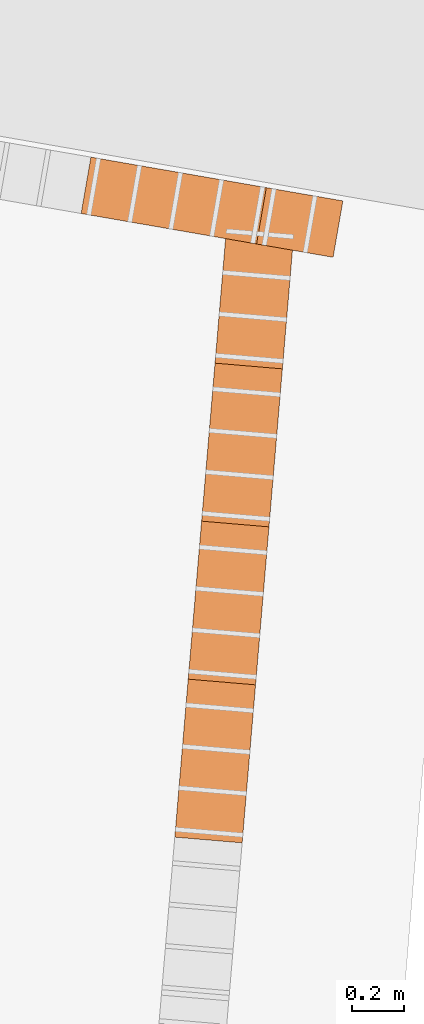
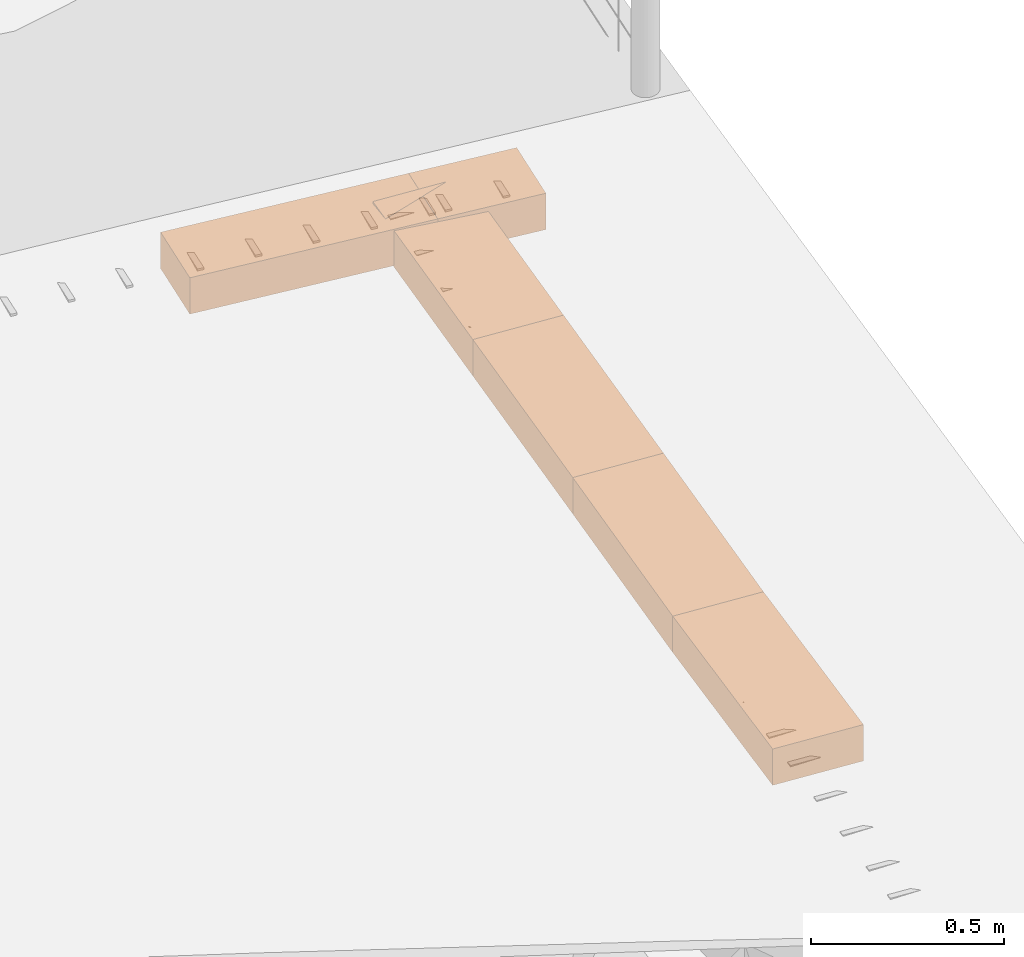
# Not in any storey, part 72 of 72: 6 proxies.
"""IFC4 model written with IfcOpenShell, lengths in metres."""

from ifc_helpers import new_model, si_unit, direction, frame, origin_with_axes, place, context, subcontext, project, spatial, polygons, material, element, save


model = new_model("IFC4")

# Units and contexts
model_context = context("Model", 3, precision=1e-05, world=origin_with_axes(), true_north=direction((0.0, 1.0)))
body_context = subcontext(model_context, "Body", "Model", "MODEL_VIEW")
ifc_project = project(units=[si_unit("AREAUNIT", "SQUARE_METRE"), si_unit("VOLUMEUNIT", "CUBIC_METRE"), si_unit("LENGTHUNIT", "METRE")], contexts=[model_context])

# Site
site_placement = place(None, origin_with_axes())
site = spatial("IfcSite", under=ifc_project, at=site_placement, Name="Lares · Rua das Mercês · artigo 4771")

# Proxies
ifc_material = material(Name="Brita drenante", Category="stone")
proxy_1_placement = place(site_placement, frame((0.0, 0.0, 0.0), z_axis=(0.0, 0.0, 1.0), x_axis=(1.0, -1.03767253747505e-17, 0.0)))
element("IfcBuildingElementProxy", 1, at=proxy_1_placement, inside=site, material=ifc_material, Name="Acesso · dreno lateral raso · leito drenante", ObjectType="Acesso · dreno lateral raso · leito drenante", PredefinedType="USERDEFINED", context=body_context, shape_type="Tessellation", body=[
    polygons([(82.2036088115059, 5.5071228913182, 16.2737932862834), (82.241255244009, 5.72387792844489, 16.2737932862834), (82.9159825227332, 5.60668999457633, 16.295060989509), (82.8783360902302, 5.38993495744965, 16.295060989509), (82.2036088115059, 5.5071228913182, 16.3887932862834), (82.241255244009, 5.72387792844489, 16.3887932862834), (82.9159825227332, 5.60668999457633, 16.410060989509), (82.8783360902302, 5.38993495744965, 16.410060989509)], [[[4, 3, 2, 1]], [[5, 6, 7, 8]], [[1, 2, 6, 5]], [[2, 3, 7, 6]], [[3, 4, 8, 7]], [[4, 1, 5, 8]]]),
])
proxy_2_placement = place(site_placement, frame((0.0, 0.0, 0.0), z_axis=(0.0, 0.0, 1.0), x_axis=(1.0, -1.03767253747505e-17, 0.0)))
element("IfcBuildingElementProxy", 2, at=proxy_2_placement, inside=site, material=ifc_material, Name="Acesso · dreno lateral raso · leito drenante", ObjectType="Acesso · dreno lateral raso · leito drenante", PredefinedType="USERDEFINED", context=body_context, shape_type="Tessellation", body=[
    polygons([(82.8783362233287, 5.38993493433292, 16.295060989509), (82.9159823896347, 5.60669001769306, 16.295060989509), (83.2103184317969, 5.55556953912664, 16.3043386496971), (83.1726722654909, 5.3388144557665, 16.3043386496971), (82.8783362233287, 5.38993493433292, 16.410060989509), (82.9159823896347, 5.60669001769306, 16.410060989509), (83.2103184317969, 5.55556953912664, 16.4193386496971), (83.1726722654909, 5.3388144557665, 16.4193386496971)], [[[4, 3, 2, 1]], [[5, 6, 7, 8]], [[1, 2, 6, 5]], [[2, 3, 7, 6]], [[3, 4, 8, 7]], [[4, 1, 5, 8]]]),
])
proxy_3_placement = place(site_placement, frame((0.0, 0.0, 0.0), z_axis=(0.0, 0.0, 1.0), x_axis=(1.0, -1.03767253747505e-17, 0.0)))
element("IfcBuildingElementProxy", 3, at=proxy_3_placement, inside=site, material=ifc_material, Name="Interceção · caleira rua · leito drenante", ObjectType="Interceção · caleira rua · leito drenante", PredefinedType="USERDEFINED", context=body_context, shape_type="Tessellation", body=[
    polygons([(82.8229051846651, 3.08668363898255, 16.110675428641), (82.5638369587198, 3.10867578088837, 16.110675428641), (82.615418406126, 3.71630709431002, 16.1447230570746), (82.8744866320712, 3.69431495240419, 16.1447230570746), (82.8229051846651, 3.08668363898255, 16.225675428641), (82.5638369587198, 3.10867578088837, 16.225675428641), (82.615418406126, 3.71630709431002, 16.2597230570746), (82.8744866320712, 3.69431495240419, 16.2597230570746)], [[[4, 3, 2, 1]], [[5, 6, 7, 8]], [[1, 2, 6, 5]], [[2, 3, 7, 6]], [[3, 4, 8, 7]], [[4, 1, 5, 8]]]),
])
proxy_4_placement = place(site_placement, frame((0.0, 0.0, 0.0), z_axis=(0.0, 0.0, 1.0), x_axis=(1.0, -1.03767253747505e-17, 0.0)))
element("IfcBuildingElementProxy", 4, at=proxy_4_placement, inside=site, material=ifc_material, Name="Interceção · caleira rua · leito drenante", ObjectType="Interceção · caleira rua · leito drenante", PredefinedType="USERDEFINED", context=body_context, shape_type="Tessellation", body=[
    polygons([(82.8744866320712, 3.69431495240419, 16.1447230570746), (82.615418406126, 3.71630709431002, 16.1447230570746), (82.6669998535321, 4.32393840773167, 16.1968991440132), (82.9260680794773, 4.30194626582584, 16.1968991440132), (82.8744866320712, 3.69431495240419, 16.2597230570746), (82.615418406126, 3.71630709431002, 16.2597230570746), (82.6669998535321, 4.32393840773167, 16.3118991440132), (82.9260680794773, 4.30194626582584, 16.3118991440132)], [[[4, 3, 2, 1]], [[5, 6, 7, 8]], [[1, 2, 6, 5]], [[2, 3, 7, 6]], [[3, 4, 8, 7]], [[4, 1, 5, 8]]]),
])
proxy_5_placement = place(site_placement, frame((0.0, 0.0, 0.0), z_axis=(0.0, 0.0, 1.0), x_axis=(1.0, -1.03767253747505e-17, 0.0)))
element("IfcBuildingElementProxy", 5, at=proxy_5_placement, inside=site, material=ifc_material, Name="Interceção · caleira rua · leito drenante", ObjectType="Interceção · caleira rua · leito drenante", PredefinedType="USERDEFINED", context=body_context, shape_type="Tessellation", body=[
    polygons([(82.9260680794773, 4.30194626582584, 16.1968991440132), (82.6669998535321, 4.32393840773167, 16.1968991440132), (82.7185813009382, 4.93156972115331, 16.2472177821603), (82.9776495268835, 4.90957757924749, 16.2472177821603), (82.9260680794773, 4.30194626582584, 16.3118991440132), (82.6669998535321, 4.32393840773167, 16.3118991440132), (82.7185813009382, 4.93156972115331, 16.3622177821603), (82.9776495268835, 4.90957757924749, 16.3622177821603)], [[[4, 3, 2, 1]], [[5, 6, 7, 8]], [[1, 2, 6, 5]], [[2, 3, 7, 6]], [[3, 4, 8, 7]], [[4, 1, 5, 8]]]),
])
proxy_6_placement = place(site_placement, frame((0.0, 0.0, 0.0), z_axis=(0.0, 0.0, 1.0), x_axis=(1.0, -1.03767253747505e-17, 0.0)))
element("IfcBuildingElementProxy", 6, at=proxy_6_placement, inside=site, material=ifc_material, Name="Interceção · caleira rua · leito drenante", ObjectType="Interceção · caleira rua · leito drenante", PredefinedType="USERDEFINED", context=body_context, shape_type="Tessellation", body=[
    polygons([(82.9776495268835, 4.90957757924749, 16.2472177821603), (82.7185813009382, 4.93156972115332, 16.2472177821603), (82.7701627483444, 5.53920103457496, 16.2975364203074), (83.0292309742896, 5.51720889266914, 16.2975364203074), (82.9776495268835, 4.90957757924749, 16.3622177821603), (82.7185813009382, 4.93156972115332, 16.3622177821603), (82.7701627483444, 5.53920103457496, 16.4125364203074), (83.0292309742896, 5.51720889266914, 16.4125364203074)], [[[4, 3, 2, 1]], [[5, 6, 7, 8]], [[1, 2, 6, 5]], [[2, 3, 7, 6]], [[3, 4, 8, 7]], [[4, 1, 5, 8]]]),
])

save(model, "model.ifc")
